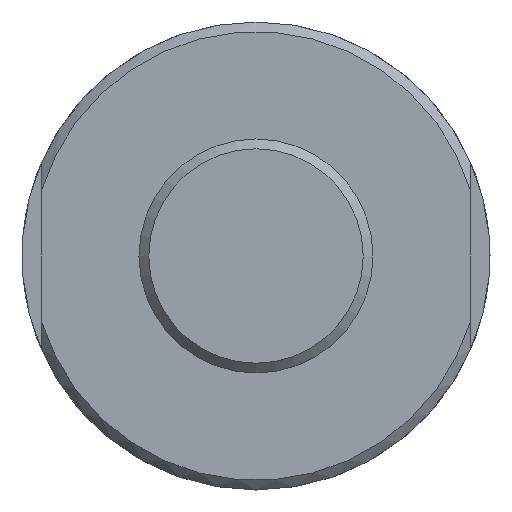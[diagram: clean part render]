
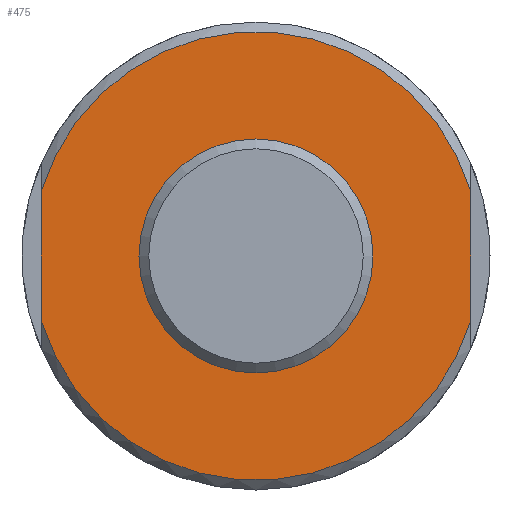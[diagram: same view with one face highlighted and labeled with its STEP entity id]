
A CAD part, left-side view. The second image highlights one B-rep face of the part: STEP entity #475.
In plain terms, the highlighted planar face has unit normal (-1, 0, 0).
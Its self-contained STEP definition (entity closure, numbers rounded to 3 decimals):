
#70=CIRCLE('',#553,11.5);
#71=CIRCLE('',#555,11.5);
#76=CIRCLE('',#562,6.);
#155=ORIENTED_EDGE('',*,*,#234,.F.);
#156=ORIENTED_EDGE('',*,*,#222,.F.);
#157=ORIENTED_EDGE('',*,*,#235,.T.);
#158=ORIENTED_EDGE('',*,*,#224,.F.);
#159=ORIENTED_EDGE('',*,*,#236,.T.);
#222=EDGE_CURVE('',#270,#268,#70,.T.);
#224=EDGE_CURVE('',#271,#273,#71,.T.);
#234=EDGE_CURVE('',#268,#271,#302,.T.);
#235=EDGE_CURVE('',#270,#273,#303,.T.);
#236=EDGE_CURVE('',#280,#280,#76,.T.);
#268=VERTEX_POINT('',#816);
#270=VERTEX_POINT('',#823);
#271=VERTEX_POINT('',#830);
#273=VERTEX_POINT('',#833);
#280=VERTEX_POINT('',#857);
#302=LINE('',#854,#320);
#303=LINE('',#855,#321);
#320=VECTOR('',#695,1000.);
#321=VECTOR('',#696,1000.);
#358=EDGE_LOOP('',(#155,#156,#157,#158));
#359=EDGE_LOOP('',(#159));
#414=FACE_BOUND('',#358,.T.);
#415=FACE_BOUND('',#359,.T.);
#446=PLANE('',#561);
#475=ADVANCED_FACE('',(#414,#415),#446,.F.);
#553=AXIS2_PLACEMENT_3D('',#824,#673,#674);
#555=AXIS2_PLACEMENT_3D('',#832,#677,#678);
#561=AXIS2_PLACEMENT_3D('',#853,#693,#694);
#562=AXIS2_PLACEMENT_3D('',#856,#697,#698);
#673=DIRECTION('',(1.,0.,0.));
#674=DIRECTION('',(0.,0.,-1.));
#677=DIRECTION('',(1.,0.,0.));
#678=DIRECTION('',(0.,0.,-1.));
#693=DIRECTION('',(1.,0.,0.));
#694=DIRECTION('',(0.,0.,-1.));
#695=DIRECTION('',(0.,0.,-1.));
#696=DIRECTION('',(0.,0.,-1.));
#697=DIRECTION('',(1.,0.,0.));
#698=DIRECTION('',(0.,0.,-1.));
#816=CARTESIAN_POINT('',(0.,-11.,3.354));
#823=CARTESIAN_POINT('',(0.,11.,3.354));
#824=CARTESIAN_POINT('',(0.,0.,0.));
#830=CARTESIAN_POINT('',(0.,-11.,-3.354));
#832=CARTESIAN_POINT('',(0.,0.,0.));
#833=CARTESIAN_POINT('',(0.,11.,-3.354));
#853=CARTESIAN_POINT('',(0.,0.,0.));
#854=CARTESIAN_POINT('',(0.,-11.,10.));
#855=CARTESIAN_POINT('',(0.,11.,10.));
#856=CARTESIAN_POINT('',(0.,0.,0.));
#857=CARTESIAN_POINT('',(0.,0.,-6.));
